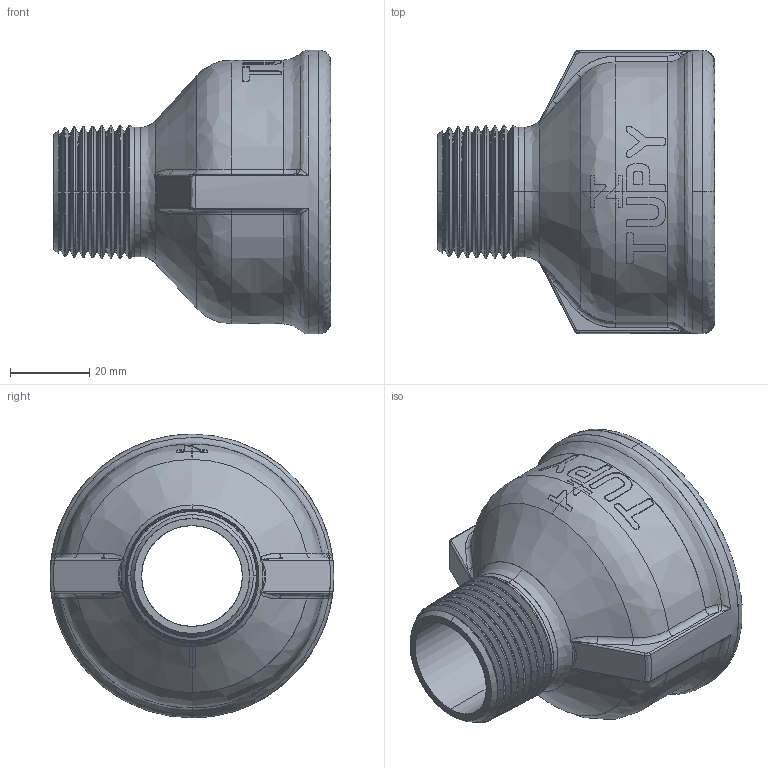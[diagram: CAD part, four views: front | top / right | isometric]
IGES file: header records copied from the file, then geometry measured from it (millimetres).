
Start section: SolidWorks IGES file using analytic representation for surfaces
Global section: file name: C:\Users\Joel Rosa\Desktop\Tubulação\12-35-OK\12-35-045.IGS; native system: SolidWorks 2011; preprocessor: SolidWorks 2011; author: Joel Rosa; date: 121209.031546; units: millimetre
Bounding box: 70 x 71.6 x 71.6 mm (x, y, z)
Surface area: 28699.8 mm2 (no closed solid volume)
Topology: 0 solids, 0 shells, 397 faces, 3325 edges, 3321 vertices
Faces by surface type: bspline 274, revolution 123
